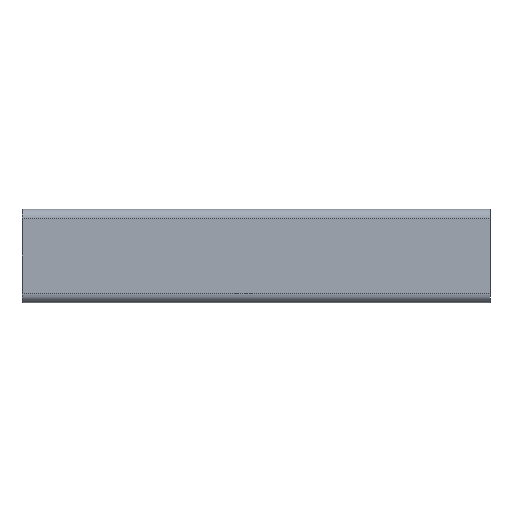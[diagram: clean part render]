
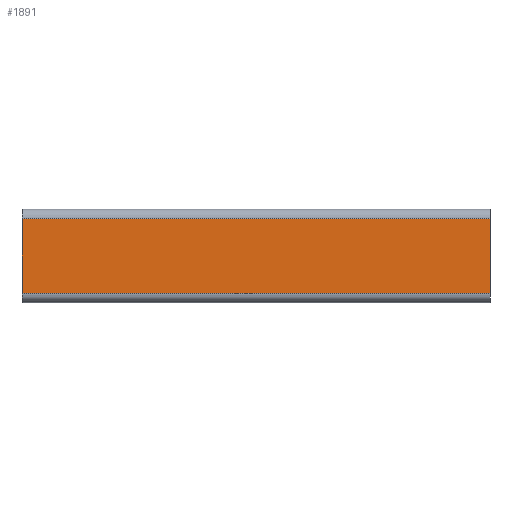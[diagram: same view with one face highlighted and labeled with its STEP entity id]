
A CAD part, left-side view. The second image highlights one B-rep face of the part: STEP entity #1891.
In plain terms, the highlighted planar face has unit normal (-1, 0, 0).
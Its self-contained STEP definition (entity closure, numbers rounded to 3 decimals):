
#42 = CARTESIAN_POINT ( 'NONE',  ( -10., -50., -8. ) ) ;
#80 = ORIENTED_EDGE ( 'NONE', *, *, #990, .F. ) ;
#155 = LINE ( 'NONE', #2659, #2539 ) ;
#339 = CARTESIAN_POINT ( 'NONE',  ( -10., 50., -8. ) ) ;
#433 = DIRECTION ( 'NONE',  ( 0., -1., 0. ) ) ;
#448 = ORIENTED_EDGE ( 'NONE', *, *, #1921, .T. ) ;
#494 = EDGE_CURVE ( 'NONE', #952, #1703, #1304, .T. ) ;
#538 = CARTESIAN_POINT ( 'NONE',  ( -10., 50., 8. ) ) ;
#571 = DIRECTION ( 'NONE',  ( 0., 0., -1. ) ) ;
#595 = DIRECTION ( 'NONE',  ( 0., 0., 1. ) ) ;
#611 = CARTESIAN_POINT ( 'NONE',  ( -10., -50., 8. ) ) ;
#634 = VERTEX_POINT ( 'NONE', #1345 ) ;
#820 = FACE_OUTER_BOUND ( 'NONE', #1658, .T. ) ;
#842 = LINE ( 'NONE', #538, #1279 ) ;
#850 = EDGE_CURVE ( 'NONE', #634, #1079, #842, .T. ) ;
#900 = ORIENTED_EDGE ( 'NONE', *, *, #494, .T. ) ;
#922 = VECTOR ( 'NONE', #595, 1000. ) ;
#952 = VERTEX_POINT ( 'NONE', #339 ) ;
#990 = EDGE_CURVE ( 'NONE', #952, #634, #155, .T. ) ;
#1079 = VERTEX_POINT ( 'NONE', #611 ) ;
#1199 = LINE ( 'NONE', #1257, #922 ) ;
#1257 = CARTESIAN_POINT ( 'NONE',  ( -10., -50., -8. ) ) ;
#1279 = VECTOR ( 'NONE', #1834, 1000. ) ;
#1304 = LINE ( 'NONE', #1915, #1348 ) ;
#1345 = CARTESIAN_POINT ( 'NONE',  ( -10., 50., 8. ) ) ;
#1348 = VECTOR ( 'NONE', #433, 1000. ) ;
#1467 = DIRECTION ( 'NONE',  ( 1., 0., 0. ) ) ;
#1567 = ORIENTED_EDGE ( 'NONE', *, *, #850, .F. ) ;
#1658 = EDGE_LOOP ( 'NONE', ( #448, #1567, #80, #900 ) ) ;
#1703 = VERTEX_POINT ( 'NONE', #42 ) ;
#1812 = PLANE ( 'NONE',  #2306 ) ;
#1834 = DIRECTION ( 'NONE',  ( 0., -1., 0. ) ) ;
#1891 = ADVANCED_FACE ( 'NONE', ( #820 ), #1812, .F. ) ;
#1915 = CARTESIAN_POINT ( 'NONE',  ( -10., 50., -8. ) ) ;
#1921 = EDGE_CURVE ( 'NONE', #1703, #1079, #1199, .T. ) ;
#2306 = AXIS2_PLACEMENT_3D ( 'NONE', #2466, #1467, #571 ) ;
#2449 = DIRECTION ( 'NONE',  ( 0., 0., 1. ) ) ;
#2466 = CARTESIAN_POINT ( 'NONE',  ( -10., 50., -8. ) ) ;
#2539 = VECTOR ( 'NONE', #2449, 1000. ) ;
#2659 = CARTESIAN_POINT ( 'NONE',  ( -10., 50., -8. ) ) ;
